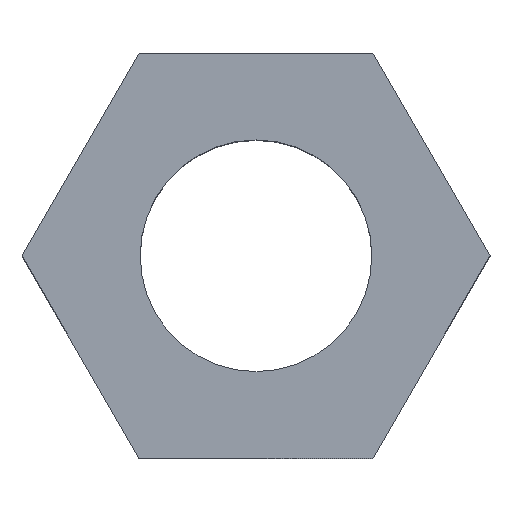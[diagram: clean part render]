
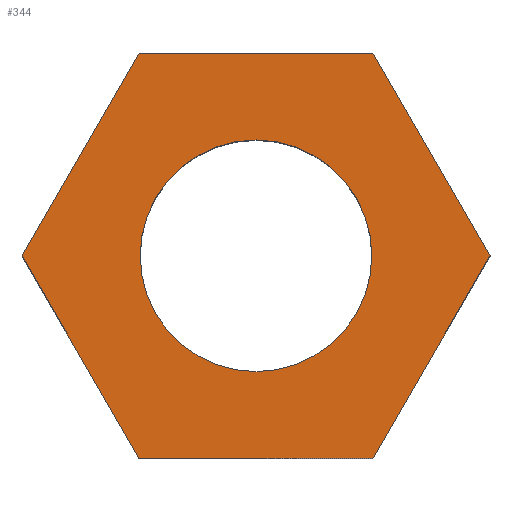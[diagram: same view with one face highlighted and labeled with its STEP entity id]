
A CAD part, top view. The second image highlights one B-rep face of the part: STEP entity #344.
In plain terms, the highlighted planar face has unit normal (0, 0, 1).
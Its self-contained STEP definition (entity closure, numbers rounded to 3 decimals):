
#14 = LINE ( 'NONE', #155, #181 ) ;
#20 = LINE ( 'NONE', #166, #170 ) ;
#25 = PLANE ( 'NONE',  #281 ) ;
#31 = ORIENTED_EDGE ( 'NONE', *, *, #109, .T. ) ;
#33 = VERTEX_POINT ( 'NONE', #327 ) ;
#49 = EDGE_CURVE ( 'NONE', #319, #56, #300, .T. ) ;
#50 = CARTESIAN_POINT ( 'NONE',  ( -2.021, 3.5, 5. ) ) ;
#52 = CIRCLE ( 'NONE', #298, 2. ) ;
#56 = VERTEX_POINT ( 'NONE', #190 ) ;
#61 = EDGE_LOOP ( 'NONE', ( #89, #63, #233, #376, #31, #262 ) ) ;
#63 = ORIENTED_EDGE ( 'NONE', *, *, #217, .T. ) ;
#78 = VECTOR ( 'NONE', #279, 1000. ) ;
#82 = EDGE_CURVE ( 'NONE', #151, #173, #103, .T. ) ;
#83 = CARTESIAN_POINT ( 'NONE',  ( 0., 0., 5. ) ) ;
#85 = CIRCLE ( 'NONE', #143, 2. ) ;
#89 = ORIENTED_EDGE ( 'NONE', *, *, #82, .T. ) ;
#99 = DIRECTION ( 'NONE',  ( 0.5, 0.866, 0. ) ) ;
#103 = LINE ( 'NONE', #210, #176 ) ;
#109 = EDGE_CURVE ( 'NONE', #56, #124, #14, .T. ) ;
#116 = FACE_OUTER_BOUND ( 'NONE', #61, .T. ) ;
#123 = VECTOR ( 'NONE', #188, 1000. ) ;
#124 = VERTEX_POINT ( 'NONE', #192 ) ;
#132 = CARTESIAN_POINT ( 'NONE',  ( -2.021, -3.5, 5. ) ) ;
#141 = CARTESIAN_POINT ( 'NONE',  ( 0., 0., 5. ) ) ;
#143 = AXIS2_PLACEMENT_3D ( 'NONE', #141, #363, #370 ) ;
#147 = CARTESIAN_POINT ( 'NONE',  ( -2., 0., 5. ) ) ;
#151 = VERTEX_POINT ( 'NONE', #185 ) ;
#155 = CARTESIAN_POINT ( 'NONE',  ( -4.041, 0., 5. ) ) ;
#156 = CARTESIAN_POINT ( 'NONE',  ( -2.021, 3.5, 5. ) ) ;
#166 = CARTESIAN_POINT ( 'NONE',  ( 4.041, 0., 5. ) ) ;
#167 = CARTESIAN_POINT ( 'NONE',  ( 2.021, 3.5, 5. ) ) ;
#169 = DIRECTION ( 'NONE',  ( 0., 0., 1. ) ) ;
#170 = VECTOR ( 'NONE', #302, 1000. ) ;
#171 = DIRECTION ( 'NONE',  ( 0., 0., 1. ) ) ;
#172 = ORIENTED_EDGE ( 'NONE', *, *, #263, .F. ) ;
#173 = VERTEX_POINT ( 'NONE', #224 ) ;
#176 = VECTOR ( 'NONE', #99, 1000. ) ;
#179 = EDGE_LOOP ( 'NONE', ( #172, #318 ) ) ;
#181 = VECTOR ( 'NONE', #215, 1000. ) ;
#185 = CARTESIAN_POINT ( 'NONE',  ( 2.021, -3.5, 5. ) ) ;
#188 = DIRECTION ( 'NONE',  ( 1., 0., 0. ) ) ;
#190 = CARTESIAN_POINT ( 'NONE',  ( -4.041, 0., 5. ) ) ;
#192 = CARTESIAN_POINT ( 'NONE',  ( -2.021, -3.5, 5. ) ) ;
#203 = EDGE_CURVE ( 'NONE', #33, #319, #335, .T. ) ;
#210 = CARTESIAN_POINT ( 'NONE',  ( 2.021, -3.5, 5. ) ) ;
#215 = DIRECTION ( 'NONE',  ( 0.5, -0.866, 0. ) ) ;
#217 = EDGE_CURVE ( 'NONE', #173, #33, #20, .T. ) ;
#224 = CARTESIAN_POINT ( 'NONE',  ( 4.041, 0., 5. ) ) ;
#229 = FACE_BOUND ( 'NONE', #179, .T. ) ;
#233 = ORIENTED_EDGE ( 'NONE', *, *, #203, .T. ) ;
#240 = LINE ( 'NONE', #132, #123 ) ;
#262 = ORIENTED_EDGE ( 'NONE', *, *, #350, .T. ) ;
#263 = EDGE_CURVE ( 'NONE', #343, #349, #52, .T. ) ;
#271 = DIRECTION ( 'NONE',  ( -0.5, -0.866, 0. ) ) ;
#279 = DIRECTION ( 'NONE',  ( -1., 0., 0. ) ) ;
#281 = AXIS2_PLACEMENT_3D ( 'NONE', #342, #171, #314 ) ;
#282 = DIRECTION ( 'NONE',  ( 1., 0., 0. ) ) ;
#283 = EDGE_CURVE ( 'NONE', #349, #343, #85, .T. ) ;
#284 = CARTESIAN_POINT ( 'NONE',  ( 2., 0., 5. ) ) ;
#298 = AXIS2_PLACEMENT_3D ( 'NONE', #83, #169, #282 ) ;
#300 = LINE ( 'NONE', #156, #374 ) ;
#302 = DIRECTION ( 'NONE',  ( -0.5, 0.866, 0. ) ) ;
#314 = DIRECTION ( 'NONE',  ( 1., 0., 0. ) ) ;
#318 = ORIENTED_EDGE ( 'NONE', *, *, #283, .F. ) ;
#319 = VERTEX_POINT ( 'NONE', #50 ) ;
#327 = CARTESIAN_POINT ( 'NONE',  ( 2.021, 3.5, 5. ) ) ;
#335 = LINE ( 'NONE', #167, #78 ) ;
#342 = CARTESIAN_POINT ( 'NONE',  ( 0., 0., 5. ) ) ;
#343 = VERTEX_POINT ( 'NONE', #147 ) ;
#344 = ADVANCED_FACE ( 'NONE', ( #116, #229 ), #25, .T. ) ;
#349 = VERTEX_POINT ( 'NONE', #284 ) ;
#350 = EDGE_CURVE ( 'NONE', #124, #151, #240, .T. ) ;
#363 = DIRECTION ( 'NONE',  ( 0., 0., 1. ) ) ;
#370 = DIRECTION ( 'NONE',  ( 1., 0., 0. ) ) ;
#374 = VECTOR ( 'NONE', #271, 1000. ) ;
#376 = ORIENTED_EDGE ( 'NONE', *, *, #49, .T. ) ;
